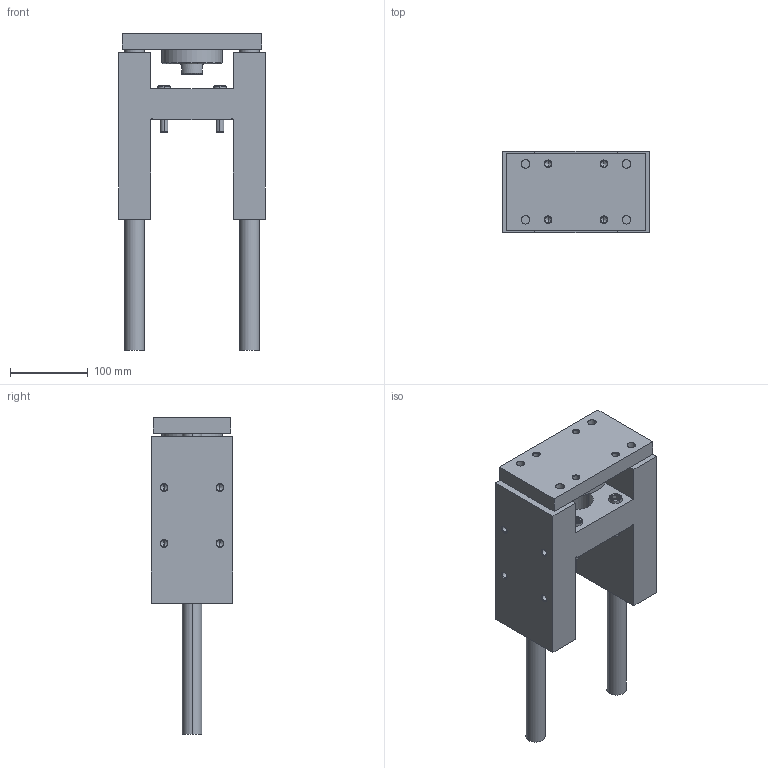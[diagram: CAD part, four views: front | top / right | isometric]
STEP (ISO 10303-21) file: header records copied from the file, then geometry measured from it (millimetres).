
FILE_DESCRIPTION (( 'STEP AP203' ), '1' );
FILE_NAME ('GB80-150.STEP', '2020-04-24T13:29:43', ( '' ), ( '' ), 'SwSTEP 2.0', 'SolidWorks 2019', '' );
FILE_SCHEMA (( 'CONFIG_CONTROL_DESIGN' ));
Length unit declared in the file: millimetre
Products named in the file (1): GB80-150
Bounding box: 189 x 105 x 408 mm (x, y, z)
Volume: 2843697.6 mm3; surface area: 343233.5 mm2
Topology: 6 solids, 6 shells, 329 faces, 728 edges, 412 vertices
Faces by surface type: cone 134, cylinder 98, plane 97
Entity records: 9631 total; most frequent: CARTESIAN_POINT 2242, DIRECTION 1662, ORIENTED_EDGE 1392, EDGE_CURVE 696, AXIS2_PLACEMENT_3D 664, VERTEX_POINT 412, EDGE_LOOP 392, VECTOR 334
